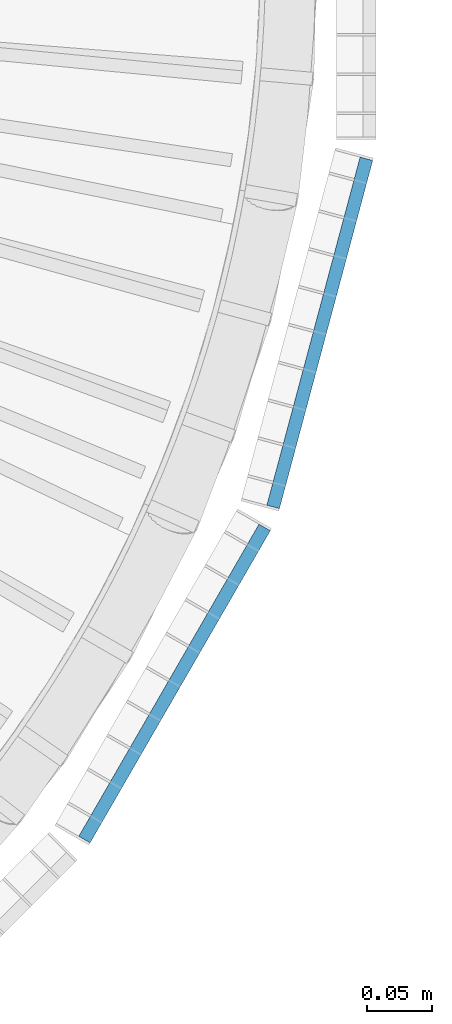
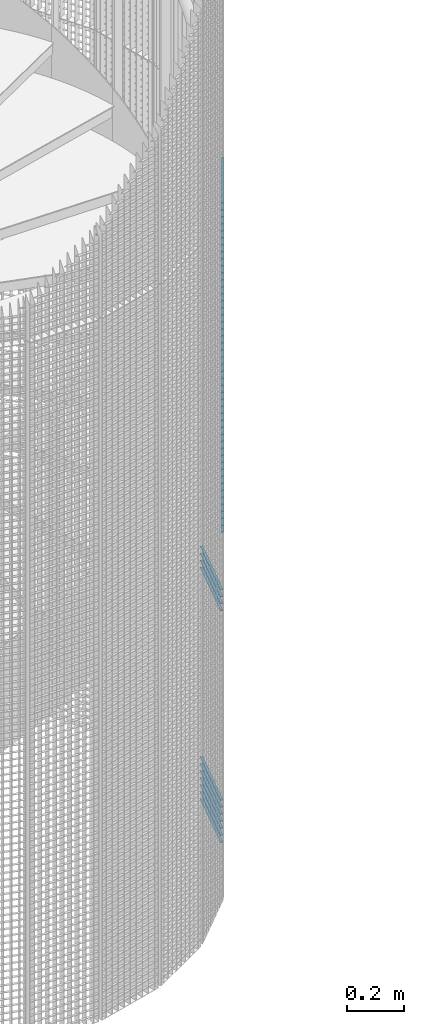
# One storey, part 265 of 1183: 59 beams, 2 elements without a shape of their own.
"""IFC2X3 building model written with IfcOpenShell, lengths in millimetres."""

from ifc_helpers import new_model, si_unit, frame, origin_with_axes, origin_2d_with_axis, place, context, subcontext, project, spatial, rectangle, extrude, material, type_object, element, aggregate, save


model = new_model("IFC2X3")

# Units and contexts
model_context = context("Model", 3, precision=1e-05, world=origin_with_axes())
body_context = subcontext(model_context, "Body", "Model", "MODEL_VIEW")
ifc_project = project(units=[si_unit("LENGTHUNIT", "METRE", prefix="MILLI"), si_unit("AREAUNIT", "SQUARE_METRE"), si_unit("VOLUMEUNIT", "CUBIC_METRE"), si_unit("MASSUNIT", "GRAM", prefix="KILO"), si_unit("TIMEUNIT", "SECOND"), si_unit("PLANEANGLEUNIT", "RADIAN"), si_unit("SOLIDANGLEUNIT", "STERADIAN"), si_unit("THERMODYNAMICTEMPERATUREUNIT", "DEGREE_CELSIUS"), si_unit("LUMINOUSINTENSITYUNIT", "LUMEN")], contexts=[model_context])

# Site, building, storey
site_placement = place(None, origin_with_axes())
site = spatial("IfcSite", under=ifc_project, at=site_placement, Name="Undefined", CompositionType="ELEMENT")
building_placement = place(site_placement, origin_with_axes())
building = spatial("IfcBuilding", under=site, at=building_placement, Name="Undefined", CompositionType="ELEMENT")
storey_placement = place(building_placement, origin_with_axes())
storey = spatial("IfcBuildingStorey", under=building, at=storey_placement, Name="Undefined", CompositionType="ELEMENT", Elevation=0.0)

# Assembly, beams
assembly_1_placement = place(storey_placement, origin_with_axes())
assembly_1 = element("IfcElementAssembly", 1, at=assembly_1_placement, inside=storey, Name="BORDURE", AssemblyPlace="NOTDEFINED", PredefinedType="NOTDEFINED")
ifc_material = material(Name="STEEL/S235JR")
beam_type = type_object("IfcBeamType", Name="PL2*10", PredefinedType="NOTDEFINED")
beam_1_placement = place(assembly_1_placement, frame((1039.82309522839, -421.483733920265, 1020.0), z_axis=(0.965925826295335, -0.258819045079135, 0.0), x_axis=(0.258819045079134, 0.965925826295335, 0.0)))
beam_1 = element("IfcBeam", 2, at=beam_1_placement, type_object=beam_type, material=ifc_material, Name="ENTRETOISE", context=body_context, shape_type="SweptSolid", body=[
    extrude(rectangle(XDim=2.0, YDim=10.0, at=origin_2d_with_axis()), frame((275.999999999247, 9.09494701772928e-13, 1.53210777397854e-14), z_axis=(-1.0, 0.0, 0.0), x_axis=(0.0, -1.0, 0.0)), (0.0, 0.0, 1.0), 276.0),
])
beam_2_placement = place(assembly_1_placement, frame((1039.82309522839, -421.483733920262, 209.999999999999), z_axis=(0.965925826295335, -0.258819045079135, 0.0), x_axis=(0.258819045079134, 0.965925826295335, 0.0)))
beam_2 = element("IfcBeam", 3, at=beam_2_placement, type_object=beam_type, material=ifc_material, Name="ENTRETOISE", context=body_context, shape_type="SweptSolid", body=[
    extrude(rectangle(XDim=2.0, YDim=10.0, at=origin_2d_with_axis()), frame((275.999999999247, 9.09494701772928e-13, 1.53210777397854e-14), z_axis=(-1.0, 0.0, 0.0), x_axis=(0.0, -1.0, 0.0)), (0.0, 0.0, 1.0), 276.0),
])
beam_3_placement = place(assembly_1_placement, frame((1039.82309522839, -421.483733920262, 179.999999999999), z_axis=(0.965925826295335, -0.258819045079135, 0.0), x_axis=(0.258819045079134, 0.965925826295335, 0.0)))
beam_3 = element("IfcBeam", 4, at=beam_3_placement, type_object=beam_type, material=ifc_material, Name="ENTRETOISE", context=body_context, shape_type="SweptSolid", body=[
    extrude(rectangle(XDim=2.0, YDim=10.0, at=origin_2d_with_axis()), frame((275.999999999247, 9.09494701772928e-13, 1.53210777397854e-14), z_axis=(-1.0, 0.0, 0.0), x_axis=(0.0, -1.0, 0.0)), (0.0, 0.0, 1.0), 276.0),
])
beam_4_placement = place(assembly_1_placement, frame((1039.82309522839, -421.483733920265, 1050.0), z_axis=(0.965925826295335, -0.258819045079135, 0.0), x_axis=(0.258819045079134, 0.965925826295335, 0.0)))
beam_4 = element("IfcBeam", 5, at=beam_4_placement, type_object=beam_type, material=ifc_material, Name="ENTRETOISE", context=body_context, shape_type="SweptSolid", body=[
    extrude(rectangle(XDim=2.0, YDim=10.0, at=origin_2d_with_axis()), frame((275.999999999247, 9.09494701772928e-13, 1.53210777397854e-14), z_axis=(-1.0, 0.0, 0.0), x_axis=(0.0, -1.0, 0.0)), (0.0, 0.0, 1.0), 276.0),
])
beam_5_placement = place(assembly_1_placement, frame((1039.82309522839, -421.483733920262, 149.999999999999), z_axis=(0.965925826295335, -0.258819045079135, 0.0), x_axis=(0.258819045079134, 0.965925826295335, 0.0)))
beam_5 = element("IfcBeam", 6, at=beam_5_placement, type_object=beam_type, material=ifc_material, Name="ENTRETOISE", context=body_context, shape_type="SweptSolid", body=[
    extrude(rectangle(XDim=2.0, YDim=10.0, at=origin_2d_with_axis()), frame((275.999999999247, 9.09494701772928e-13, 1.53210777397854e-14), z_axis=(-1.0, 0.0, 0.0), x_axis=(0.0, -1.0, 0.0)), (0.0, 0.0, 1.0), 276.0),
])
beam_6_placement = place(assembly_1_placement, frame((1039.82309522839, -421.483733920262, 119.999999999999), z_axis=(0.965925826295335, -0.258819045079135, 0.0), x_axis=(0.258819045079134, 0.965925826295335, 0.0)))
beam_6 = element("IfcBeam", 7, at=beam_6_placement, type_object=beam_type, material=ifc_material, Name="ENTRETOISE", context=body_context, shape_type="SweptSolid", body=[
    extrude(rectangle(XDim=2.0, YDim=10.0, at=origin_2d_with_axis()), frame((275.999999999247, 9.09494701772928e-13, 1.53210777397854e-14), z_axis=(-1.0, 0.0, 0.0), x_axis=(0.0, -1.0, 0.0)), (0.0, 0.0, 1.0), 276.0),
])
beam_7_placement = place(assembly_1_placement, frame((1039.82309522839, -421.483733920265, 1080.0), z_axis=(0.965925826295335, -0.258819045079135, 0.0), x_axis=(0.258819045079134, 0.965925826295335, 0.0)))
beam_7 = element("IfcBeam", 8, at=beam_7_placement, type_object=beam_type, material=ifc_material, Name="ENTRETOISE", context=body_context, shape_type="SweptSolid", body=[
    extrude(rectangle(XDim=2.0, YDim=10.0, at=origin_2d_with_axis()), frame((275.999999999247, 9.09494701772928e-13, 1.53210777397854e-14), z_axis=(-1.0, 0.0, 0.0), x_axis=(0.0, -1.0, 0.0)), (0.0, 0.0, 1.0), 276.0),
])
beam_8_placement = place(assembly_1_placement, frame((1039.82309522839, -421.483733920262, 89.9999999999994), z_axis=(0.965925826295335, -0.258819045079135, 0.0), x_axis=(0.258819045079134, 0.965925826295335, 0.0)))
beam_8 = element("IfcBeam", 9, at=beam_8_placement, type_object=beam_type, material=ifc_material, Name="ENTRETOISE", context=body_context, shape_type="SweptSolid", body=[
    extrude(rectangle(XDim=2.0, YDim=10.0, at=origin_2d_with_axis()), frame((275.999999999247, 9.09494701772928e-13, 1.53210777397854e-14), z_axis=(-1.0, 0.0, 0.0), x_axis=(0.0, -1.0, 0.0)), (0.0, 0.0, 1.0), 276.0),
])
beam_9_placement = place(assembly_1_placement, frame((1039.82309522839, -421.483733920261, 59.9999999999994), z_axis=(0.965925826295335, -0.258819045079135, 0.0), x_axis=(0.258819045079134, 0.965925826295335, 0.0)))
beam_9 = element("IfcBeam", 10, at=beam_9_placement, type_object=beam_type, material=ifc_material, Name="ENTRETOISE", context=body_context, shape_type="SweptSolid", body=[
    extrude(rectangle(XDim=2.0, YDim=10.0, at=origin_2d_with_axis()), frame((275.999999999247, 9.09494701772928e-13, 1.53210777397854e-14), z_axis=(-1.0, 0.0, 0.0), x_axis=(0.0, -1.0, 0.0)), (0.0, 0.0, 1.0), 276.0),
])
beam_10_placement = place(assembly_1_placement, frame((1039.82309522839, -421.483733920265, 1110.0), z_axis=(0.965925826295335, -0.258819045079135, 0.0), x_axis=(0.258819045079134, 0.965925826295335, 0.0)))
beam_10 = element("IfcBeam", 11, at=beam_10_placement, type_object=beam_type, material=ifc_material, Name="ENTRETOISE", context=body_context, shape_type="SweptSolid", body=[
    extrude(rectangle(XDim=2.0, YDim=10.0, at=origin_2d_with_axis()), frame((275.999999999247, 9.09494701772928e-13, 1.53210777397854e-14), z_axis=(-1.0, 0.0, 0.0), x_axis=(0.0, -1.0, 0.0)), (0.0, 0.0, 1.0), 276.0),
])
beam_11_placement = place(assembly_1_placement, frame((1039.82309522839, -421.48373392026, 29.9999999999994), z_axis=(0.965925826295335, -0.258819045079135, 0.0), x_axis=(0.258819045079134, 0.965925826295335, 0.0)))
beam_11 = element("IfcBeam", 12, at=beam_11_placement, type_object=beam_type, material=ifc_material, Name="ENTRETOISE", context=body_context, shape_type="SweptSolid", body=[
    extrude(rectangle(XDim=2.0, YDim=10.0, at=origin_2d_with_axis()), frame((275.999999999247, 9.09494701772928e-13, 1.53210777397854e-14), z_axis=(-1.0, 0.0, 0.0), x_axis=(0.0, -1.0, 0.0)), (0.0, 0.0, 1.0), 276.0),
])
aggregate(assembly_1, [beam_1, beam_2, beam_3, beam_4, beam_5, beam_6, beam_7, beam_8, beam_9, beam_10, beam_11])

assembly_2_placement = place(storey_placement, origin_with_axes())
assembly_2 = element("IfcElementAssembly", 13, at=assembly_2_placement, inside=storey, Name="BORDURE", AssemblyPlace="NOTDEFINED", PredefinedType="NOTDEFINED")
beam_12_placement = place(assembly_2_placement, frame((895.303964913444, -676.248044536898, 2970.0), z_axis=(0.866025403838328, -0.49999999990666, 0.0), x_axis=(0.49999999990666, 0.866025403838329, 0.0)))
beam_12 = element("IfcBeam", 14, at=beam_12_placement, type_object=beam_type, material=ifc_material, Name="ENTRETOISE", context=body_context, shape_type="SweptSolid", body=[
    extrude(rectangle(XDim=2.0, YDim=10.0, at=origin_2d_with_axis()), frame((275.999999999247, 9.09494701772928e-13, 1.53210777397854e-14), z_axis=(-1.0, 0.0, 0.0), x_axis=(0.0, -1.0, 0.0)), (0.0, 0.0, 1.0), 276.0),
])
beam_13_placement = place(assembly_2_placement, frame((895.303964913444, -676.248044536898, 2940.0), z_axis=(0.866025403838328, -0.49999999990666, 0.0), x_axis=(0.49999999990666, 0.866025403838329, 0.0)))
beam_13 = element("IfcBeam", 15, at=beam_13_placement, type_object=beam_type, material=ifc_material, Name="ENTRETOISE", context=body_context, shape_type="SweptSolid", body=[
    extrude(rectangle(XDim=2.0, YDim=10.0, at=origin_2d_with_axis()), frame((275.999999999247, 9.09494701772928e-13, 1.53210777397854e-14), z_axis=(-1.0, 0.0, 0.0), x_axis=(0.0, -1.0, 0.0)), (0.0, 0.0, 1.0), 276.0),
])
beam_14_placement = place(assembly_2_placement, frame((895.303964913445, -676.248044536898, 2910.0), z_axis=(0.866025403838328, -0.49999999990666, 0.0), x_axis=(0.49999999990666, 0.866025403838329, 0.0)))
beam_14 = element("IfcBeam", 16, at=beam_14_placement, type_object=beam_type, material=ifc_material, Name="ENTRETOISE", context=body_context, shape_type="SweptSolid", body=[
    extrude(rectangle(XDim=2.0, YDim=10.0, at=origin_2d_with_axis()), frame((275.999999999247, 9.09494701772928e-13, 1.53210777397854e-14), z_axis=(-1.0, 0.0, 0.0), x_axis=(0.0, -1.0, 0.0)), (0.0, 0.0, 1.0), 276.0),
])
beam_15_placement = place(assembly_2_placement, frame((895.303964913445, -676.248044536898, 2880.0), z_axis=(0.866025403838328, -0.49999999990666, 0.0), x_axis=(0.49999999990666, 0.866025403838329, 0.0)))
beam_15 = element("IfcBeam", 17, at=beam_15_placement, type_object=beam_type, material=ifc_material, Name="ENTRETOISE", context=body_context, shape_type="SweptSolid", body=[
    extrude(rectangle(XDim=2.0, YDim=10.0, at=origin_2d_with_axis()), frame((275.999999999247, 9.09494701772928e-13, 1.53210777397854e-14), z_axis=(-1.0, 0.0, 0.0), x_axis=(0.0, -1.0, 0.0)), (0.0, 0.0, 1.0), 276.0),
])
beam_16_placement = place(assembly_2_placement, frame((895.303964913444, -676.248044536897, 2850.0), z_axis=(0.866025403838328, -0.49999999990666, 0.0), x_axis=(0.49999999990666, 0.866025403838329, 0.0)))
beam_16 = element("IfcBeam", 18, at=beam_16_placement, type_object=beam_type, material=ifc_material, Name="ENTRETOISE", context=body_context, shape_type="SweptSolid", body=[
    extrude(rectangle(XDim=2.0, YDim=10.0, at=origin_2d_with_axis()), frame((275.999999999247, 9.09494701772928e-13, 1.53210777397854e-14), z_axis=(-1.0, 0.0, 0.0), x_axis=(0.0, -1.0, 0.0)), (0.0, 0.0, 1.0), 276.0),
])
beam_17_placement = place(assembly_2_placement, frame((895.303964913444, -676.248044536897, 2820.0), z_axis=(0.866025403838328, -0.49999999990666, 0.0), x_axis=(0.49999999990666, 0.866025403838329, 0.0)))
beam_17 = element("IfcBeam", 19, at=beam_17_placement, type_object=beam_type, material=ifc_material, Name="ENTRETOISE", context=body_context, shape_type="SweptSolid", body=[
    extrude(rectangle(XDim=2.0, YDim=10.0, at=origin_2d_with_axis()), frame((275.999999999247, 9.09494701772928e-13, 1.53210777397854e-14), z_axis=(-1.0, 0.0, 0.0), x_axis=(0.0, -1.0, 0.0)), (0.0, 0.0, 1.0), 276.0),
])
beam_18_placement = place(assembly_2_placement, frame((895.303964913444, -676.248044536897, 2790.0), z_axis=(0.866025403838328, -0.49999999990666, 0.0), x_axis=(0.49999999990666, 0.866025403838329, 0.0)))
beam_18 = element("IfcBeam", 20, at=beam_18_placement, type_object=beam_type, material=ifc_material, Name="ENTRETOISE", context=body_context, shape_type="SweptSolid", body=[
    extrude(rectangle(XDim=2.0, YDim=10.0, at=origin_2d_with_axis()), frame((275.999999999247, 9.09494701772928e-13, 1.53210777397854e-14), z_axis=(-1.0, 0.0, 0.0), x_axis=(0.0, -1.0, 0.0)), (0.0, 0.0, 1.0), 276.0),
])
beam_19_placement = place(assembly_2_placement, frame((895.303964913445, -676.248044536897, 2760.0), z_axis=(0.866025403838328, -0.49999999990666, 0.0), x_axis=(0.49999999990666, 0.866025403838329, 0.0)))
beam_19 = element("IfcBeam", 21, at=beam_19_placement, type_object=beam_type, material=ifc_material, Name="ENTRETOISE", context=body_context, shape_type="SweptSolid", body=[
    extrude(rectangle(XDim=2.0, YDim=10.0, at=origin_2d_with_axis()), frame((275.999999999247, 9.09494701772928e-13, 1.53210777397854e-14), z_axis=(-1.0, 0.0, 0.0), x_axis=(0.0, -1.0, 0.0)), (0.0, 0.0, 1.0), 276.0),
])
beam_20_placement = place(assembly_2_placement, frame((895.303964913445, -676.248044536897, 2730.0), z_axis=(0.866025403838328, -0.49999999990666, 0.0), x_axis=(0.49999999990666, 0.866025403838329, 0.0)))
beam_20 = element("IfcBeam", 22, at=beam_20_placement, type_object=beam_type, material=ifc_material, Name="ENTRETOISE", context=body_context, shape_type="SweptSolid", body=[
    extrude(rectangle(XDim=2.0, YDim=10.0, at=origin_2d_with_axis()), frame((275.999999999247, 9.09494701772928e-13, 1.53210777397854e-14), z_axis=(-1.0, 0.0, 0.0), x_axis=(0.0, -1.0, 0.0)), (0.0, 0.0, 1.0), 276.0),
])
beam_21_placement = place(assembly_2_placement, frame((895.303964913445, -676.248044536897, 2700.0), z_axis=(0.866025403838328, -0.49999999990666, 0.0), x_axis=(0.49999999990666, 0.866025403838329, 0.0)))
beam_21 = element("IfcBeam", 23, at=beam_21_placement, type_object=beam_type, material=ifc_material, Name="ENTRETOISE", context=body_context, shape_type="SweptSolid", body=[
    extrude(rectangle(XDim=2.0, YDim=10.0, at=origin_2d_with_axis()), frame((275.999999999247, 9.09494701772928e-13, 1.53210777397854e-14), z_axis=(-1.0, 0.0, 0.0), x_axis=(0.0, -1.0, 0.0)), (0.0, 0.0, 1.0), 276.0),
])
beam_22_placement = place(assembly_2_placement, frame((895.303964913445, -676.248044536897, 2670.0), z_axis=(0.866025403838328, -0.49999999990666, 0.0), x_axis=(0.49999999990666, 0.866025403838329, 0.0)))
beam_22 = element("IfcBeam", 24, at=beam_22_placement, type_object=beam_type, material=ifc_material, Name="ENTRETOISE", context=body_context, shape_type="SweptSolid", body=[
    extrude(rectangle(XDim=2.0, YDim=10.0, at=origin_2d_with_axis()), frame((275.999999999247, 9.09494701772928e-13, 1.53210777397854e-14), z_axis=(-1.0, 0.0, 0.0), x_axis=(0.0, -1.0, 0.0)), (0.0, 0.0, 1.0), 276.0),
])
beam_23_placement = place(assembly_2_placement, frame((895.303964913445, -676.248044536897, 2640.0), z_axis=(0.866025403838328, -0.49999999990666, 0.0), x_axis=(0.49999999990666, 0.866025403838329, 0.0)))
beam_23 = element("IfcBeam", 25, at=beam_23_placement, type_object=beam_type, material=ifc_material, Name="ENTRETOISE", context=body_context, shape_type="SweptSolid", body=[
    extrude(rectangle(XDim=2.0, YDim=10.0, at=origin_2d_with_axis()), frame((275.999999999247, 9.09494701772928e-13, 1.53210777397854e-14), z_axis=(-1.0, 0.0, 0.0), x_axis=(0.0, -1.0, 0.0)), (0.0, 0.0, 1.0), 276.0),
])
beam_24_placement = place(assembly_2_placement, frame((895.303964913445, -676.248044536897, 2610.0), z_axis=(0.866025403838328, -0.49999999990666, 0.0), x_axis=(0.49999999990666, 0.866025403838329, 0.0)))
beam_24 = element("IfcBeam", 26, at=beam_24_placement, type_object=beam_type, material=ifc_material, Name="ENTRETOISE", context=body_context, shape_type="SweptSolid", body=[
    extrude(rectangle(XDim=2.0, YDim=10.0, at=origin_2d_with_axis()), frame((275.999999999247, 9.09494701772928e-13, 1.53210777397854e-14), z_axis=(-1.0, 0.0, 0.0), x_axis=(0.0, -1.0, 0.0)), (0.0, 0.0, 1.0), 276.0),
])
beam_25_placement = place(assembly_2_placement, frame((895.303964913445, -676.248044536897, 2580.0), z_axis=(0.866025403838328, -0.49999999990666, 0.0), x_axis=(0.49999999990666, 0.866025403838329, 0.0)))
beam_25 = element("IfcBeam", 27, at=beam_25_placement, type_object=beam_type, material=ifc_material, Name="ENTRETOISE", context=body_context, shape_type="SweptSolid", body=[
    extrude(rectangle(XDim=2.0, YDim=10.0, at=origin_2d_with_axis()), frame((275.999999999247, 9.09494701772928e-13, 1.53210777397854e-14), z_axis=(-1.0, 0.0, 0.0), x_axis=(0.0, -1.0, 0.0)), (0.0, 0.0, 1.0), 276.0),
])
beam_26_placement = place(assembly_2_placement, frame((895.303964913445, -676.248044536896, 2550.0), z_axis=(0.866025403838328, -0.49999999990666, 0.0), x_axis=(0.49999999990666, 0.866025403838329, 0.0)))
beam_26 = element("IfcBeam", 28, at=beam_26_placement, type_object=beam_type, material=ifc_material, Name="ENTRETOISE", context=body_context, shape_type="SweptSolid", body=[
    extrude(rectangle(XDim=2.0, YDim=10.0, at=origin_2d_with_axis()), frame((275.999999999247, 9.09494701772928e-13, 1.53210777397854e-14), z_axis=(-1.0, 0.0, 0.0), x_axis=(0.0, -1.0, 0.0)), (0.0, 0.0, 1.0), 276.0),
])
beam_27_placement = place(assembly_2_placement, frame((895.303964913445, -676.248044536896, 2520.0), z_axis=(0.866025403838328, -0.49999999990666, 0.0), x_axis=(0.49999999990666, 0.866025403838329, 0.0)))
beam_27 = element("IfcBeam", 29, at=beam_27_placement, type_object=beam_type, material=ifc_material, Name="ENTRETOISE", context=body_context, shape_type="SweptSolid", body=[
    extrude(rectangle(XDim=2.0, YDim=10.0, at=origin_2d_with_axis()), frame((275.999999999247, 9.09494701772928e-13, 1.53210777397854e-14), z_axis=(-1.0, 0.0, 0.0), x_axis=(0.0, -1.0, 0.0)), (0.0, 0.0, 1.0), 276.0),
])
beam_28_placement = place(assembly_2_placement, frame((895.303964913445, -676.248044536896, 2490.0), z_axis=(0.866025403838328, -0.49999999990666, 0.0), x_axis=(0.49999999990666, 0.866025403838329, 0.0)))
beam_28 = element("IfcBeam", 30, at=beam_28_placement, type_object=beam_type, material=ifc_material, Name="ENTRETOISE", context=body_context, shape_type="SweptSolid", body=[
    extrude(rectangle(XDim=2.0, YDim=10.0, at=origin_2d_with_axis()), frame((275.999999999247, 9.09494701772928e-13, 1.53210777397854e-14), z_axis=(-1.0, 0.0, 0.0), x_axis=(0.0, -1.0, 0.0)), (0.0, 0.0, 1.0), 276.0),
])
beam_29_placement = place(assembly_2_placement, frame((895.303964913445, -676.248044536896, 2460.0), z_axis=(0.866025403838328, -0.49999999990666, 0.0), x_axis=(0.49999999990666, 0.866025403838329, 0.0)))
beam_29 = element("IfcBeam", 31, at=beam_29_placement, type_object=beam_type, material=ifc_material, Name="ENTRETOISE", context=body_context, shape_type="SweptSolid", body=[
    extrude(rectangle(XDim=2.0, YDim=10.0, at=origin_2d_with_axis()), frame((275.999999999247, 9.09494701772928e-13, 1.53210777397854e-14), z_axis=(-1.0, 0.0, 0.0), x_axis=(0.0, -1.0, 0.0)), (0.0, 0.0, 1.0), 276.0),
])
beam_30_placement = place(assembly_2_placement, frame((895.303964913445, -676.248044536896, 2430.0), z_axis=(0.866025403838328, -0.49999999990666, 0.0), x_axis=(0.49999999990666, 0.866025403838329, 0.0)))
beam_30 = element("IfcBeam", 32, at=beam_30_placement, type_object=beam_type, material=ifc_material, Name="ENTRETOISE", context=body_context, shape_type="SweptSolid", body=[
    extrude(rectangle(XDim=2.0, YDim=10.0, at=origin_2d_with_axis()), frame((275.999999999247, 9.09494701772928e-13, 1.53210777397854e-14), z_axis=(-1.0, 0.0, 0.0), x_axis=(0.0, -1.0, 0.0)), (0.0, 0.0, 1.0), 276.0),
])
beam_31_placement = place(assembly_2_placement, frame((895.303964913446, -676.248044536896, 2400.0), z_axis=(0.866025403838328, -0.49999999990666, 0.0), x_axis=(0.49999999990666, 0.866025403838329, 0.0)))
beam_31 = element("IfcBeam", 33, at=beam_31_placement, type_object=beam_type, material=ifc_material, Name="ENTRETOISE", context=body_context, shape_type="SweptSolid", body=[
    extrude(rectangle(XDim=2.0, YDim=10.0, at=origin_2d_with_axis()), frame((275.999999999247, 9.09494701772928e-13, 1.53210777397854e-14), z_axis=(-1.0, 0.0, 0.0), x_axis=(0.0, -1.0, 0.0)), (0.0, 0.0, 1.0), 276.0),
])
beam_32_placement = place(assembly_2_placement, frame((895.303964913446, -676.248044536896, 2370.0), z_axis=(0.866025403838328, -0.49999999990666, 0.0), x_axis=(0.49999999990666, 0.866025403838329, 0.0)))
beam_32 = element("IfcBeam", 34, at=beam_32_placement, type_object=beam_type, material=ifc_material, Name="ENTRETOISE", context=body_context, shape_type="SweptSolid", body=[
    extrude(rectangle(XDim=2.0, YDim=10.0, at=origin_2d_with_axis()), frame((275.999999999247, 9.09494701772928e-13, 1.53210777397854e-14), z_axis=(-1.0, 0.0, 0.0), x_axis=(0.0, -1.0, 0.0)), (0.0, 0.0, 1.0), 276.0),
])
beam_33_placement = place(assembly_2_placement, frame((895.303964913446, -676.248044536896, 2340.0), z_axis=(0.866025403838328, -0.49999999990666, 0.0), x_axis=(0.49999999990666, 0.866025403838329, 0.0)))
beam_33 = element("IfcBeam", 35, at=beam_33_placement, type_object=beam_type, material=ifc_material, Name="ENTRETOISE", context=body_context, shape_type="SweptSolid", body=[
    extrude(rectangle(XDim=2.0, YDim=10.0, at=origin_2d_with_axis()), frame((275.999999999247, 9.09494701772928e-13, 1.53210777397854e-14), z_axis=(-1.0, 0.0, 0.0), x_axis=(0.0, -1.0, 0.0)), (0.0, 0.0, 1.0), 276.0),
])
beam_34_placement = place(assembly_2_placement, frame((895.303964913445, -676.248044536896, 2310.0), z_axis=(0.866025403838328, -0.49999999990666, 0.0), x_axis=(0.49999999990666, 0.866025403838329, 0.0)))
beam_34 = element("IfcBeam", 36, at=beam_34_placement, type_object=beam_type, material=ifc_material, Name="ENTRETOISE", context=body_context, shape_type="SweptSolid", body=[
    extrude(rectangle(XDim=2.0, YDim=10.0, at=origin_2d_with_axis()), frame((275.999999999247, 9.09494701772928e-13, 1.53210777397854e-14), z_axis=(-1.0, 0.0, 0.0), x_axis=(0.0, -1.0, 0.0)), (0.0, 0.0, 1.0), 276.0),
])
beam_35_placement = place(assembly_2_placement, frame((895.303964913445, -676.248044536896, 2280.0), z_axis=(0.866025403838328, -0.49999999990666, 0.0), x_axis=(0.49999999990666, 0.866025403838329, 0.0)))
beam_35 = element("IfcBeam", 37, at=beam_35_placement, type_object=beam_type, material=ifc_material, Name="ENTRETOISE", context=body_context, shape_type="SweptSolid", body=[
    extrude(rectangle(XDim=2.0, YDim=10.0, at=origin_2d_with_axis()), frame((275.999999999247, 9.09494701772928e-13, 1.53210777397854e-14), z_axis=(-1.0, 0.0, 0.0), x_axis=(0.0, -1.0, 0.0)), (0.0, 0.0, 1.0), 276.0),
])
beam_36_placement = place(assembly_2_placement, frame((895.303964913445, -676.248044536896, 2250.0), z_axis=(0.866025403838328, -0.49999999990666, 0.0), x_axis=(0.49999999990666, 0.866025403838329, 0.0)))
beam_36 = element("IfcBeam", 38, at=beam_36_placement, type_object=beam_type, material=ifc_material, Name="ENTRETOISE", context=body_context, shape_type="SweptSolid", body=[
    extrude(rectangle(XDim=2.0, YDim=10.0, at=origin_2d_with_axis()), frame((275.999999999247, 9.09494701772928e-13, 1.53210777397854e-14), z_axis=(-1.0, 0.0, 0.0), x_axis=(0.0, -1.0, 0.0)), (0.0, 0.0, 1.0), 276.0),
])
beam_37_placement = place(assembly_2_placement, frame((895.303964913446, -676.248044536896, 2220.0), z_axis=(0.866025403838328, -0.49999999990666, 0.0), x_axis=(0.49999999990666, 0.866025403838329, 0.0)))
beam_37 = element("IfcBeam", 39, at=beam_37_placement, type_object=beam_type, material=ifc_material, Name="ENTRETOISE", context=body_context, shape_type="SweptSolid", body=[
    extrude(rectangle(XDim=2.0, YDim=10.0, at=origin_2d_with_axis()), frame((275.999999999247, 9.09494701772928e-13, 1.53210777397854e-14), z_axis=(-1.0, 0.0, 0.0), x_axis=(0.0, -1.0, 0.0)), (0.0, 0.0, 1.0), 276.0),
])
beam_38_placement = place(assembly_2_placement, frame((895.303964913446, -676.248044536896, 2190.0), z_axis=(0.866025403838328, -0.49999999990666, 0.0), x_axis=(0.49999999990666, 0.866025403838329, 0.0)))
beam_38 = element("IfcBeam", 40, at=beam_38_placement, type_object=beam_type, material=ifc_material, Name="ENTRETOISE", context=body_context, shape_type="SweptSolid", body=[
    extrude(rectangle(XDim=2.0, YDim=10.0, at=origin_2d_with_axis()), frame((275.999999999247, 9.09494701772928e-13, 1.53210777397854e-14), z_axis=(-1.0, 0.0, 0.0), x_axis=(0.0, -1.0, 0.0)), (0.0, 0.0, 1.0), 276.0),
])
beam_39_placement = place(assembly_2_placement, frame((895.303964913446, -676.248044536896, 2160.0), z_axis=(0.866025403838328, -0.49999999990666, 0.0), x_axis=(0.49999999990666, 0.866025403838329, 0.0)))
beam_39 = element("IfcBeam", 41, at=beam_39_placement, type_object=beam_type, material=ifc_material, Name="ENTRETOISE", context=body_context, shape_type="SweptSolid", body=[
    extrude(rectangle(XDim=2.0, YDim=10.0, at=origin_2d_with_axis()), frame((275.999999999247, 9.09494701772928e-13, 1.53210777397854e-14), z_axis=(-1.0, 0.0, 0.0), x_axis=(0.0, -1.0, 0.0)), (0.0, 0.0, 1.0), 276.0),
])
beam_40_placement = place(assembly_2_placement, frame((895.303964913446, -676.248044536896, 2130.0), z_axis=(0.866025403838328, -0.49999999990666, 0.0), x_axis=(0.49999999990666, 0.866025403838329, 0.0)))
beam_40 = element("IfcBeam", 42, at=beam_40_placement, type_object=beam_type, material=ifc_material, Name="ENTRETOISE", context=body_context, shape_type="SweptSolid", body=[
    extrude(rectangle(XDim=2.0, YDim=10.0, at=origin_2d_with_axis()), frame((275.999999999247, 9.09494701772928e-13, 1.53210777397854e-14), z_axis=(-1.0, 0.0, 0.0), x_axis=(0.0, -1.0, 0.0)), (0.0, 0.0, 1.0), 276.0),
])
beam_41_placement = place(assembly_2_placement, frame((895.303964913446, -676.248044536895, 2100.0), z_axis=(0.866025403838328, -0.49999999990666, 0.0), x_axis=(0.49999999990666, 0.866025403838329, 0.0)))
beam_41 = element("IfcBeam", 43, at=beam_41_placement, type_object=beam_type, material=ifc_material, Name="ENTRETOISE", context=body_context, shape_type="SweptSolid", body=[
    extrude(rectangle(XDim=2.0, YDim=10.0, at=origin_2d_with_axis()), frame((275.999999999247, 9.09494701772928e-13, 1.53210777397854e-14), z_axis=(-1.0, 0.0, 0.0), x_axis=(0.0, -1.0, 0.0)), (0.0, 0.0, 1.0), 276.0),
])
beam_42_placement = place(assembly_2_placement, frame((895.303964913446, -676.248044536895, 2070.0), z_axis=(0.866025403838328, -0.49999999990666, 0.0), x_axis=(0.49999999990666, 0.866025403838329, 0.0)))
beam_42 = element("IfcBeam", 44, at=beam_42_placement, type_object=beam_type, material=ifc_material, Name="ENTRETOISE", context=body_context, shape_type="SweptSolid", body=[
    extrude(rectangle(XDim=2.0, YDim=10.0, at=origin_2d_with_axis()), frame((275.999999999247, 9.09494701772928e-13, 1.53210777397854e-14), z_axis=(-1.0, 0.0, 0.0), x_axis=(0.0, -1.0, 0.0)), (0.0, 0.0, 1.0), 276.0),
])
beam_43_placement = place(assembly_2_placement, frame((895.303964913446, -676.248044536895, 2040.0), z_axis=(0.866025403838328, -0.49999999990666, 0.0), x_axis=(0.49999999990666, 0.866025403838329, 0.0)))
beam_43 = element("IfcBeam", 45, at=beam_43_placement, type_object=beam_type, material=ifc_material, Name="ENTRETOISE", context=body_context, shape_type="SweptSolid", body=[
    extrude(rectangle(XDim=2.0, YDim=10.0, at=origin_2d_with_axis()), frame((275.999999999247, 9.09494701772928e-13, 1.53210777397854e-14), z_axis=(-1.0, 0.0, 0.0), x_axis=(0.0, -1.0, 0.0)), (0.0, 0.0, 1.0), 276.0),
])
beam_44_placement = place(assembly_2_placement, frame((895.303964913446, -676.248044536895, 2010.0), z_axis=(0.866025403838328, -0.49999999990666, 0.0), x_axis=(0.49999999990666, 0.866025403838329, 0.0)))
beam_44 = element("IfcBeam", 46, at=beam_44_placement, type_object=beam_type, material=ifc_material, Name="ENTRETOISE", context=body_context, shape_type="SweptSolid", body=[
    extrude(rectangle(XDim=2.0, YDim=10.0, at=origin_2d_with_axis()), frame((275.999999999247, 9.09494701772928e-13, 1.53210777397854e-14), z_axis=(-1.0, 0.0, 0.0), x_axis=(0.0, -1.0, 0.0)), (0.0, 0.0, 1.0), 276.0),
])
beam_45_placement = place(assembly_2_placement, frame((895.303964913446, -676.248044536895, 1980.0), z_axis=(0.866025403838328, -0.49999999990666, 0.0), x_axis=(0.49999999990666, 0.866025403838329, 0.0)))
beam_45 = element("IfcBeam", 47, at=beam_45_placement, type_object=beam_type, material=ifc_material, Name="ENTRETOISE", context=body_context, shape_type="SweptSolid", body=[
    extrude(rectangle(XDim=2.0, YDim=10.0, at=origin_2d_with_axis()), frame((275.999999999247, 9.09494701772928e-13, 1.53210777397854e-14), z_axis=(-1.0, 0.0, 0.0), x_axis=(0.0, -1.0, 0.0)), (0.0, 0.0, 1.0), 276.0),
])
beam_46_placement = place(assembly_2_placement, frame((895.303964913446, -676.248044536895, 1950.0), z_axis=(0.866025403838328, -0.49999999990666, 0.0), x_axis=(0.49999999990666, 0.866025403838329, 0.0)))
beam_46 = element("IfcBeam", 48, at=beam_46_placement, type_object=beam_type, material=ifc_material, Name="ENTRETOISE", context=body_context, shape_type="SweptSolid", body=[
    extrude(rectangle(XDim=2.0, YDim=10.0, at=origin_2d_with_axis()), frame((275.999999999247, 9.09494701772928e-13, 1.53210777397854e-14), z_axis=(-1.0, 0.0, 0.0), x_axis=(0.0, -1.0, 0.0)), (0.0, 0.0, 1.0), 276.0),
])
beam_47_placement = place(assembly_2_placement, frame((895.303964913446, -676.248044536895, 1920.0), z_axis=(0.866025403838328, -0.49999999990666, 0.0), x_axis=(0.49999999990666, 0.866025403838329, 0.0)))
beam_47 = element("IfcBeam", 49, at=beam_47_placement, type_object=beam_type, material=ifc_material, Name="ENTRETOISE", context=body_context, shape_type="SweptSolid", body=[
    extrude(rectangle(XDim=2.0, YDim=10.0, at=origin_2d_with_axis()), frame((275.999999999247, 9.09494701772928e-13, 1.53210777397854e-14), z_axis=(-1.0, 0.0, 0.0), x_axis=(0.0, -1.0, 0.0)), (0.0, 0.0, 1.0), 276.0),
])
beam_48_placement = place(assembly_2_placement, frame((895.303964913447, -676.248044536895, 1890.0), z_axis=(0.866025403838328, -0.49999999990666, 0.0), x_axis=(0.49999999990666, 0.866025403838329, 0.0)))
beam_48 = element("IfcBeam", 50, at=beam_48_placement, type_object=beam_type, material=ifc_material, Name="ENTRETOISE", context=body_context, shape_type="SweptSolid", body=[
    extrude(rectangle(XDim=2.0, YDim=10.0, at=origin_2d_with_axis()), frame((275.999999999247, 9.09494701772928e-13, 1.53210777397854e-14), z_axis=(-1.0, 0.0, 0.0), x_axis=(0.0, -1.0, 0.0)), (0.0, 0.0, 1.0), 276.0),
])
beam_49_placement = place(assembly_2_placement, frame((895.303964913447, -676.248044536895, 1860.0), z_axis=(0.866025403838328, -0.49999999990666, 0.0), x_axis=(0.49999999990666, 0.866025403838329, 0.0)))
beam_49 = element("IfcBeam", 51, at=beam_49_placement, type_object=beam_type, material=ifc_material, Name="ENTRETOISE", context=body_context, shape_type="SweptSolid", body=[
    extrude(rectangle(XDim=2.0, YDim=10.0, at=origin_2d_with_axis()), frame((275.999999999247, 9.09494701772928e-13, 1.53210777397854e-14), z_axis=(-1.0, 0.0, 0.0), x_axis=(0.0, -1.0, 0.0)), (0.0, 0.0, 1.0), 276.0),
])
beam_50_placement = place(assembly_2_placement, frame((895.303964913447, -676.248044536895, 1830.0), z_axis=(0.866025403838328, -0.49999999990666, 0.0), x_axis=(0.49999999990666, 0.866025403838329, 0.0)))
beam_50 = element("IfcBeam", 52, at=beam_50_placement, type_object=beam_type, material=ifc_material, Name="ENTRETOISE", context=body_context, shape_type="SweptSolid", body=[
    extrude(rectangle(XDim=2.0, YDim=10.0, at=origin_2d_with_axis()), frame((275.999999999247, 9.09494701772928e-13, 1.53210777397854e-14), z_axis=(-1.0, 0.0, 0.0), x_axis=(0.0, -1.0, 0.0)), (0.0, 0.0, 1.0), 276.0),
])
beam_51_placement = place(assembly_2_placement, frame((895.303964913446, -676.248044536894, 1800.0), z_axis=(0.866025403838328, -0.49999999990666, 0.0), x_axis=(0.49999999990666, 0.866025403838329, 0.0)))
beam_51 = element("IfcBeam", 53, at=beam_51_placement, type_object=beam_type, material=ifc_material, Name="ENTRETOISE", context=body_context, shape_type="SweptSolid", body=[
    extrude(rectangle(XDim=2.0, YDim=10.0, at=origin_2d_with_axis()), frame((275.999999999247, 9.09494701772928e-13, 1.53210777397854e-14), z_axis=(-1.0, 0.0, 0.0), x_axis=(0.0, -1.0, 0.0)), (0.0, 0.0, 1.0), 276.0),
])
beam_52_placement = place(assembly_2_placement, frame((895.303964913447, -676.248044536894, 1770.0), z_axis=(0.866025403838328, -0.49999999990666, 0.0), x_axis=(0.49999999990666, 0.866025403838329, 0.0)))
beam_52 = element("IfcBeam", 54, at=beam_52_placement, type_object=beam_type, material=ifc_material, Name="ENTRETOISE", context=body_context, shape_type="SweptSolid", body=[
    extrude(rectangle(XDim=2.0, YDim=10.0, at=origin_2d_with_axis()), frame((275.999999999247, 9.09494701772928e-13, 1.53210777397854e-14), z_axis=(-1.0, 0.0, 0.0), x_axis=(0.0, -1.0, 0.0)), (0.0, 0.0, 1.0), 276.0),
])
beam_53_placement = place(assembly_2_placement, frame((895.303964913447, -676.248044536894, 1740.0), z_axis=(0.866025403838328, -0.49999999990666, 0.0), x_axis=(0.49999999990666, 0.866025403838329, 0.0)))
beam_53 = element("IfcBeam", 55, at=beam_53_placement, type_object=beam_type, material=ifc_material, Name="ENTRETOISE", context=body_context, shape_type="SweptSolid", body=[
    extrude(rectangle(XDim=2.0, YDim=10.0, at=origin_2d_with_axis()), frame((275.999999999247, 9.09494701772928e-13, 1.53210777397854e-14), z_axis=(-1.0, 0.0, 0.0), x_axis=(0.0, -1.0, 0.0)), (0.0, 0.0, 1.0), 276.0),
])
beam_54_placement = place(assembly_2_placement, frame((895.303964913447, -676.248044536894, 1710.0), z_axis=(0.866025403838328, -0.49999999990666, 0.0), x_axis=(0.49999999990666, 0.866025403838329, 0.0)))
beam_54 = element("IfcBeam", 56, at=beam_54_placement, type_object=beam_type, material=ifc_material, Name="ENTRETOISE", context=body_context, shape_type="SweptSolid", body=[
    extrude(rectangle(XDim=2.0, YDim=10.0, at=origin_2d_with_axis()), frame((275.999999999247, 9.09494701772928e-13, 1.53210777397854e-14), z_axis=(-1.0, 0.0, 0.0), x_axis=(0.0, -1.0, 0.0)), (0.0, 0.0, 1.0), 276.0),
])
beam_55_placement = place(assembly_2_placement, frame((895.303964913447, -676.248044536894, 1680.0), z_axis=(0.866025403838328, -0.49999999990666, 0.0), x_axis=(0.49999999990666, 0.866025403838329, 0.0)))
beam_55 = element("IfcBeam", 57, at=beam_55_placement, type_object=beam_type, material=ifc_material, Name="ENTRETOISE", context=body_context, shape_type="SweptSolid", body=[
    extrude(rectangle(XDim=2.0, YDim=10.0, at=origin_2d_with_axis()), frame((275.999999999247, 9.09494701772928e-13, 1.53210777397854e-14), z_axis=(-1.0, 0.0, 0.0), x_axis=(0.0, -1.0, 0.0)), (0.0, 0.0, 1.0), 276.0),
])
beam_56_placement = place(assembly_2_placement, frame((895.303964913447, -676.248044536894, 1650.0), z_axis=(0.866025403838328, -0.49999999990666, 0.0), x_axis=(0.49999999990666, 0.866025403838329, 0.0)))
beam_56 = element("IfcBeam", 58, at=beam_56_placement, type_object=beam_type, material=ifc_material, Name="ENTRETOISE", context=body_context, shape_type="SweptSolid", body=[
    extrude(rectangle(XDim=2.0, YDim=10.0, at=origin_2d_with_axis()), frame((275.999999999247, 9.09494701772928e-13, 1.53210777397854e-14), z_axis=(-1.0, 0.0, 0.0), x_axis=(0.0, -1.0, 0.0)), (0.0, 0.0, 1.0), 276.0),
])
beam_57_placement = place(assembly_2_placement, frame((895.303964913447, -676.248044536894, 1620.0), z_axis=(0.866025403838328, -0.49999999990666, 0.0), x_axis=(0.49999999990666, 0.866025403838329, 0.0)))
beam_57 = element("IfcBeam", 59, at=beam_57_placement, type_object=beam_type, material=ifc_material, Name="ENTRETOISE", context=body_context, shape_type="SweptSolid", body=[
    extrude(rectangle(XDim=2.0, YDim=10.0, at=origin_2d_with_axis()), frame((275.999999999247, 9.09494701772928e-13, 1.53210777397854e-14), z_axis=(-1.0, 0.0, 0.0), x_axis=(0.0, -1.0, 0.0)), (0.0, 0.0, 1.0), 276.0),
])
beam_58_placement = place(assembly_2_placement, frame((895.303964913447, -676.248044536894, 1590.0), z_axis=(0.866025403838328, -0.49999999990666, 0.0), x_axis=(0.49999999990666, 0.866025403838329, 0.0)))
beam_58 = element("IfcBeam", 60, at=beam_58_placement, type_object=beam_type, material=ifc_material, Name="ENTRETOISE", context=body_context, shape_type="SweptSolid", body=[
    extrude(rectangle(XDim=2.0, YDim=10.0, at=origin_2d_with_axis()), frame((275.999999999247, 9.09494701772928e-13, 1.53210777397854e-14), z_axis=(-1.0, 0.0, 0.0), x_axis=(0.0, -1.0, 0.0)), (0.0, 0.0, 1.0), 276.0),
])
beam_59_placement = place(assembly_2_placement, frame((895.303964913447, -676.248044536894, 1560.0), z_axis=(0.866025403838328, -0.49999999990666, 0.0), x_axis=(0.49999999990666, 0.866025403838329, 0.0)))
beam_59 = element("IfcBeam", 61, at=beam_59_placement, type_object=beam_type, material=ifc_material, Name="ENTRETOISE", context=body_context, shape_type="SweptSolid", body=[
    extrude(rectangle(XDim=2.0, YDim=10.0, at=origin_2d_with_axis()), frame((275.999999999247, 9.09494701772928e-13, 1.53210777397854e-14), z_axis=(-1.0, 0.0, 0.0), x_axis=(0.0, -1.0, 0.0)), (0.0, 0.0, 1.0), 276.0),
])
aggregate(assembly_2, [beam_12, beam_13, beam_14, beam_15, beam_16, beam_17, beam_18, beam_19, beam_20, beam_21, beam_22, beam_23, beam_24, beam_25, beam_26, beam_27, beam_28, beam_29, beam_30, beam_31, beam_32, beam_33, beam_34, beam_35, beam_36, beam_37, beam_38, beam_39, beam_40, beam_41, beam_42, beam_43, beam_44, beam_45, beam_46, beam_47, beam_48, beam_49, beam_50, beam_51, beam_52, beam_53, beam_54, beam_55, beam_56, beam_57, beam_58, beam_59])

save(model, "model.ifc")
